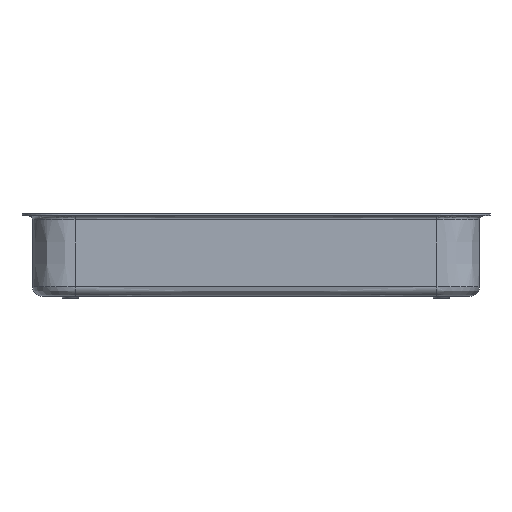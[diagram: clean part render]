
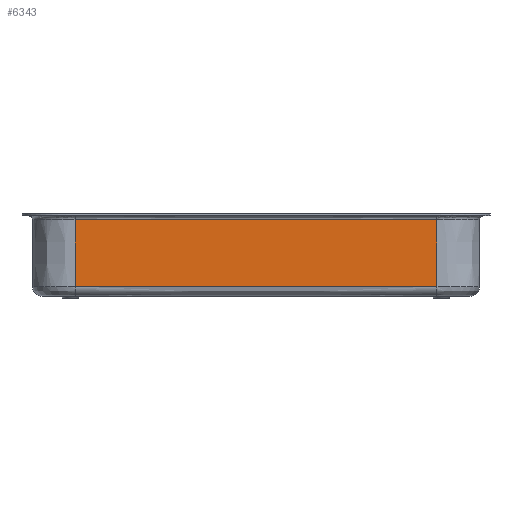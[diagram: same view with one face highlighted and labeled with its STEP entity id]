
A CAD part, left-side view. The second image highlights one B-rep face of the part: STEP entity #6343.
In plain terms, the highlighted free-form (B-spline) face has degree [2, 1] with [3, 2] control points.
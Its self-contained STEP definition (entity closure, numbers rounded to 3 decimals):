
#187=B_SPLINE_SURFACE_WITH_KNOTS('',2,1,((#17616,#17617),(#17618,#17619),
(#17620,#17621)),.UNSPECIFIED.,.F.,.F.,.F.,(3,3),(2,2),(-1.,0.),(0.,5.04),
 .UNSPECIFIED.);
#527=B_SPLINE_CURVE_WITH_KNOTS('',2,(#17622,#17623,#17624),
 .UNSPECIFIED.,.F.,.F.,(3,3),(0.,18.943),.UNSPECIFIED.);
#528=B_SPLINE_CURVE_WITH_KNOTS('',3,(#17625,#17626,#17627,#17628),
 .UNSPECIFIED.,.F.,.F.,(4,4),(0.,18.943),.UNSPECIFIED.);
#961=FACE_OUTER_BOUND('',#1388,.T.);
#1388=EDGE_LOOP('',(#5321,#5322,#5323,#5324));
#1948=LINE('',#17417,#2387);
#1949=LINE('',#17596,#2388);
#2387=VECTOR('',#7650,10.);
#2388=VECTOR('',#7651,10.);
#2953=VERTEX_POINT('',#17360);
#2954=VERTEX_POINT('',#17416);
#2955=VERTEX_POINT('',#17493);
#2956=VERTEX_POINT('',#17552);
#3753=EDGE_CURVE('',#2953,#2954,#1948,.T.);
#3757=EDGE_CURVE('',#2956,#2955,#1949,.T.);
#3762=EDGE_CURVE('',#2953,#2955,#527,.T.);
#3763=EDGE_CURVE('',#2956,#2954,#528,.T.);
#5321=ORIENTED_EDGE('',*,*,#3762,.T.);
#5322=ORIENTED_EDGE('',*,*,#3757,.F.);
#5323=ORIENTED_EDGE('',*,*,#3763,.T.);
#5324=ORIENTED_EDGE('',*,*,#3753,.F.);
#6343=ADVANCED_FACE('',(#961),#187,.T.);
#7650=DIRECTION('',(0.,0.,1.));
#7651=DIRECTION('',(0.,0.,-1.));
#17360=CARTESIAN_POINT('',(-115.053,101.145,-16.015));
#17416=CARTESIAN_POINT('',(-115.053,101.145,18.985));
#17417=CARTESIAN_POINT('',(-115.053,101.145,-16.015));
#17493=CARTESIAN_POINT('',(-115.053,-88.287,-16.015));
#17552=CARTESIAN_POINT('',(-115.053,-88.287,18.985));
#17596=CARTESIAN_POINT('',(-115.053,-88.287,18.985));
#17616=CARTESIAN_POINT('Ctrl Pts',(-115.053,-88.287,
20.985));
#17617=CARTESIAN_POINT('Ctrl Pts',(-115.053,-88.287,
-29.415));
#17618=CARTESIAN_POINT('Ctrl Pts',(-115.053,6.429,20.985));
#17619=CARTESIAN_POINT('Ctrl Pts',(-115.053,6.429,-29.415));
#17620=CARTESIAN_POINT('Ctrl Pts',(-115.053,101.145,20.985));
#17621=CARTESIAN_POINT('Ctrl Pts',(-115.053,101.145,-29.415));
#17622=CARTESIAN_POINT('Ctrl Pts',(-115.053,101.145,-16.015));
#17623=CARTESIAN_POINT('Ctrl Pts',(-115.053,6.429,-16.015));
#17624=CARTESIAN_POINT('Ctrl Pts',(-115.053,-88.287,
-16.015));
#17625=CARTESIAN_POINT('Ctrl Pts',(-115.053,-88.287,
18.985));
#17626=CARTESIAN_POINT('Ctrl Pts',(-115.053,-25.143,
18.985));
#17627=CARTESIAN_POINT('Ctrl Pts',(-115.053,38.001,18.985));
#17628=CARTESIAN_POINT('Ctrl Pts',(-115.053,101.145,18.985));
